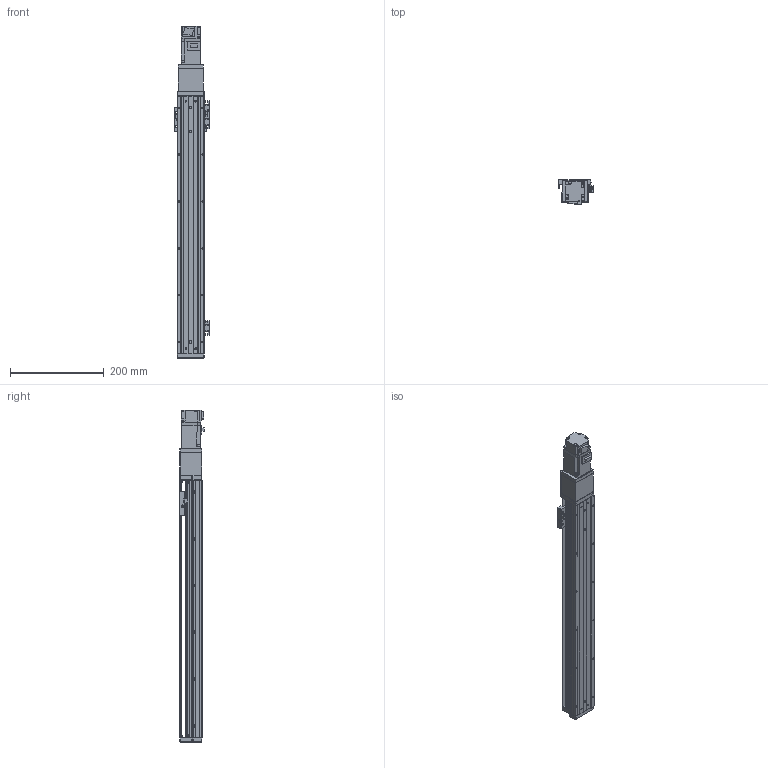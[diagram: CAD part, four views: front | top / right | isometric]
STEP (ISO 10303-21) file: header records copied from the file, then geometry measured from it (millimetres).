
FILE_DESCRIPTION (( 'STEP AP203' ), '1' );
FILE_NAME ('KTHA50-450-BC-M10-C4L.step', '2022-03-19T07:03:23', ( '微软用户' ), ( '微软中国' ), 'SwSTEP 2.0', 'SolidWorks 2020', '' );
FILE_SCHEMA (( 'CONFIG_CONTROL_DESIGN' ));
Length unit declared in the file: millimetre
Products named in the file (18): CTHA60-021; EE_SX911P_R; GBT 70.3-M3℅6; GBT77-2000 M3×3; CTHA50-027; KTHA50-001_550; GBT 70.1-M3℅6; CTHA50-006-2_CTHA60-006-2; KTHA50-002; CTHA60-017; CTHA50-013; KTHA50-004; GBT 70.1-M4×12; HG-KR13（三菱）; KTHA50-005; CTHA60-016; KTHA50-450-BC-M10-C4L; GB¨uT 70.2-M3¡Á6_M3¡Á6
Assembly tree (52 placements, depth 2):
  KTHA50-450-BC-M10-C4L
    KTHA50-001_550
    KTHA50-002
    KTHA50-004
    KTHA50-005
    GB¨uT 70.2-M3¡Á6_M3¡Á6  x6
    EE_SX911P_R  x3
    GBT77-2000 M3×3  x6
    GBT 70.1-M3℅6  x6
    CTHA60-017  x3
    GBT 70.1-M4×12  x10
    CTHA60-016  x2
    CTHA60-021  x2
    GBT 70.3-M3℅6  x6
    CTHA50-027
    CTHA50-006-2_CTHA60-006-2
    CTHA50-013
    HG-KR13（三菱）
Bounding box: 75.22 x 53.3 x 708.6 mm (x, y, z)
Volume: 1189254.6 mm3; surface area: 306969.5 mm2
Topology: 55 solids, 55 shells, 2166 faces, 5122 edges, 3136 vertices
Faces by surface type: plane 1232, cylinder 512, cone 318, torus 88, sphere 16
Entity records: 34894 total; most frequent: CARTESIAN_POINT 5690, DIRECTION 5620, ORIENTED_EDGE 5316, EDGE_CURVE 2658, AXIS2_PLACEMENT_3D 1879, LINE 1862, VECTOR 1862, VERTEX_POINT 1669
